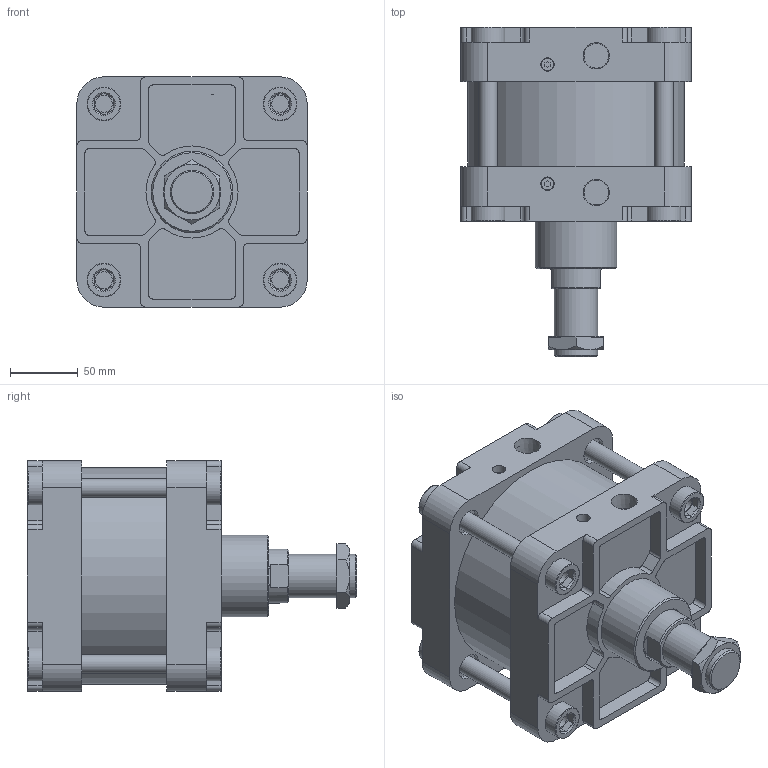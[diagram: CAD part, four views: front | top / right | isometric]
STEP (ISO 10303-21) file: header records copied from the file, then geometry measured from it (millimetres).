
FILE_DESCRIPTION(/* description */ ('Unknown'),/* implementation_level */ '2;1');
FILE_NAME(/* name */ 'WA150-0',/* time_stamp */ '2026-07-17T17:00:23+08:00',/* author */ ('Unknown'),/* organization */ ('Unknown'),/* preprocessor_version */ 'ST-DEVELOPER v16.7',/* originating_system */ 'DEX',/* authorisation */ $);
FILE_SCHEMA (('CONFIG_CONTROL_DESIGN'));
Length unit declared in the file: millimetre
Products named in the file (7): WA150-0; WA150_前3; WA150_後; WA150_鋁2; WA150_¤ß¶b¬¡æ´»å¡žçµ„; M32-2.0P-10_螺; WA150_T帽牙
Assembly tree (9 placements, depth 2):
  WA150-0
    WA150_前3
    WA150_後
    WA150_鋁2
    WA150_¤ß¶b¬¡æ´»å¡žçµ„
    M32-2.0P-10_螺
    WA150_T帽牙  x4
Bounding box: 170 x 243 x 170 mm (x, y, z)
Volume: 3299712.3 mm3; surface area: 408925.6 mm2
Topology: 9 solids, 9 shells, 389 faces, 951 edges, 633 vertices
Faces by surface type: plane 219, cylinder 139, cone 23, torus 8
Full cylindrical faces by diameter (mm): 9 x2, 10 x2, 12.5 x8, 14 x4, 20 x16, 25 x8, 30 x1, 32 x1, 40 x2, 41 x1, 60 x1, 149.5 x1, 150 x3, 160 x1
Entity records: 10688 total; most frequent: CARTESIAN_POINT 1594, DIRECTION 1520, ORIENTED_EDGE 1366, EDGE_CURVE 683, AXIS2_PLACEMENT_3D 565, VERTEX_POINT 475, LINE 390, VECTOR 390
